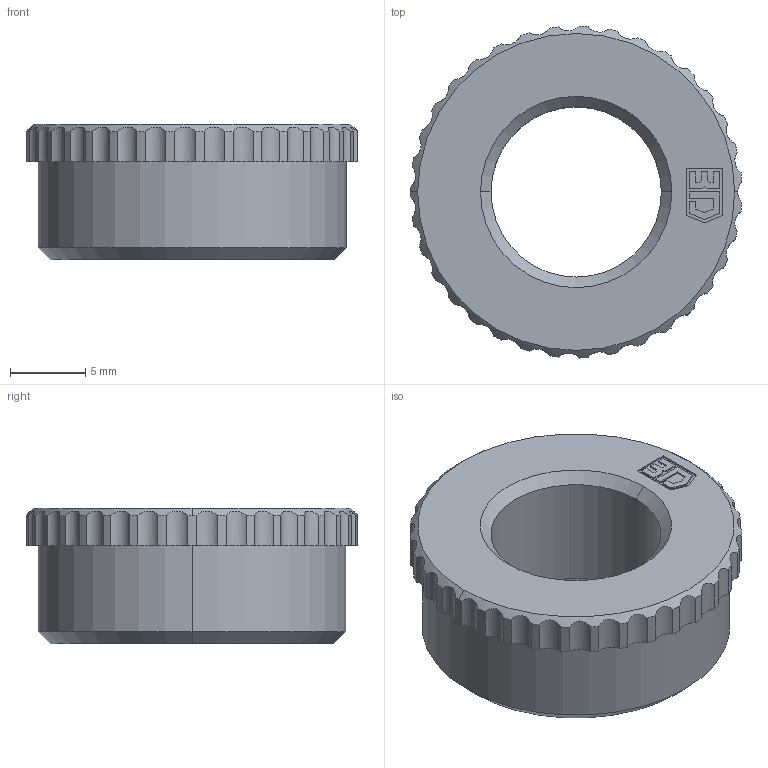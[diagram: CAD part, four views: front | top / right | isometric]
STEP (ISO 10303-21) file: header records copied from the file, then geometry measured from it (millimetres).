
FILE_DESCRIPTION (( 'STEP AP203' ), '1' );
FILE_NAME ('1307.STEP', '2005-11-22T09:15:15', ( ' ' ), ( '' ), 'SwSTEP 2.0', 'SolidWorks 2005278', '' );
FILE_SCHEMA (( 'CONFIG_CONTROL_DESIGN' ));
Length unit declared in the file: millimetre
Products named in the file (1): 1307
Bounding box: 21.98 x 22 x 9 mm (x, y, z)
Volume: 2107.3 mm3; surface area: 1389.2 mm2
Topology: 1 solids, 1 shells, 122 faces, 342 edges, 226 vertices
Faces by surface type: cylinder 74, plane 40, cone 8
Entity records: 4285 total; most frequent: CARTESIAN_POINT 1007, ORIENTED_EDGE 684, DIRECTION 674, EDGE_CURVE 342, AXIS2_PLACEMENT_3D 245, VERTEX_POINT 226, VECTOR 184, LINE 184
